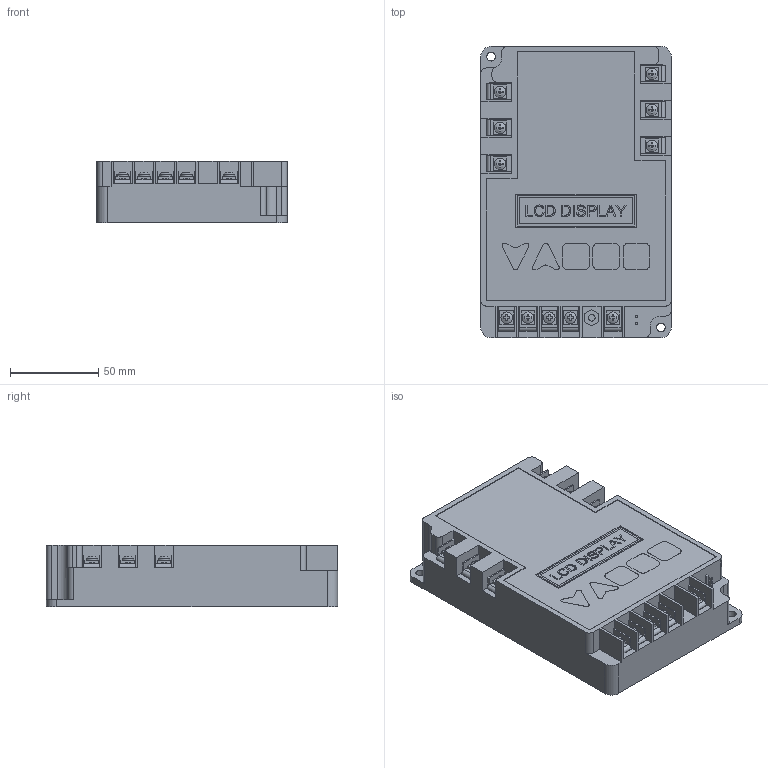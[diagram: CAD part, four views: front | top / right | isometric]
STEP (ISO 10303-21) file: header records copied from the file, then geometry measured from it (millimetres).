
FILE_DESCRIPTION(/* description */ (''),/* implementation_level */ '2;1');
FILE_NAME(/* name */ 'C:/Users/mschreiber/Desktop/MCS-PHASE-3D.step',/* time_stamp */ '2020-06-01T15:42:23-04:00',/* author */ (''),/* organization */ (''),/* preprocessor_version */ 'ST-DEVELOPER v18.1',/* originating_system */ 'Autodesk Translation Framework v9.3.0.1241',/* authorisation */ '');
FILE_SCHEMA (('AUTOMOTIVE_DESIGN { 1 0 10303 214 3 1 1 }'));
Length unit declared in the file: inch
Products named in the file (2): (Unsaved); MCS-PHASE-3D
Assembly tree (1 placements, depth 2):
  (Unsaved)
    MCS-PHASE-3D
Bounding box: 107.95 x 165.1 x 34.92 mm (x, y, z)
Volume: 577194.3 mm3; surface area: 74096.8 mm2
Topology: 35 solids, 35 shells, 1515 faces, 4299 edges, 2854 vertices
Faces by surface type: plane 1379, cylinder 125, bspline 11
Full cylindrical faces by diameter (mm): 3.861 x1, 4.89 x2, 6.566 x11
Entity records: 49420 total; most frequent: CARTESIAN_POINT 9859, ORIENTED_EDGE 8598, DIRECTION 7440, EDGE_CURVE 4299, LINE 3864, VECTOR 3864, VERTEX_POINT 2854, AXIS2_PLACEMENT_3D 1788
